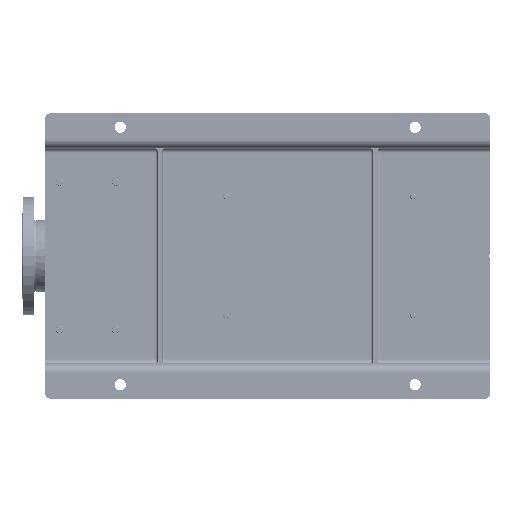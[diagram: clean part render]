
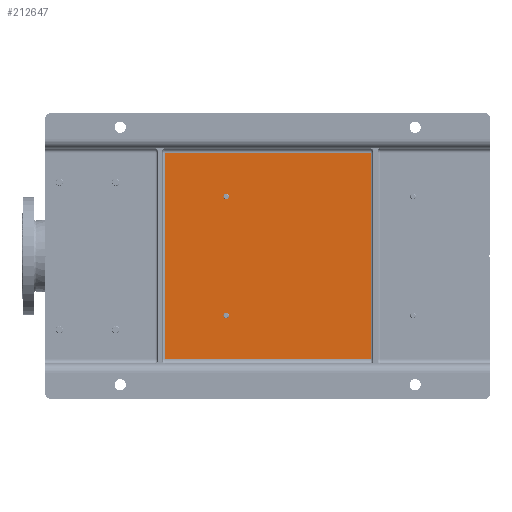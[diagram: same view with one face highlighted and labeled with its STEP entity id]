
A CAD part, front view. The second image highlights one B-rep face of the part: STEP entity #212647.
In plain terms, the highlighted planar face has unit normal (0, -1, 0).
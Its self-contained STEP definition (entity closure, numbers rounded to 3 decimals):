
#1795 = VECTOR ( 'NONE', #42062, 1000. ) ;
#3696 = ORIENTED_EDGE ( 'NONE', *, *, #183637, .T. ) ;
#3949 = VERTEX_POINT ( 'NONE', #95324 ) ;
#8284 = LINE ( 'NONE', #88505, #66999 ) ;
#10096 = DIRECTION ( 'NONE',  ( 0., 0., -1. ) ) ;
#14973 = CARTESIAN_POINT ( 'NONE',  ( 525., 65., -255. ) ) ;
#21454 = LINE ( 'NONE', #54981, #42798 ) ;
#22468 = CIRCLE ( 'NONE', #30631, 6. ) ;
#25074 = VECTOR ( 'NONE', #43583, 1000. ) ;
#26780 = CARTESIAN_POINT ( 'NONE',  ( 178., 65., -386.5 ) ) ;
#30631 = AXIS2_PLACEMENT_3D ( 'NONE', #26780, #66258, #163038 ) ;
#33391 = EDGE_CURVE ( 'NONE', #42802, #177828, #8284, .T. ) ;
#34269 = EDGE_CURVE ( 'NONE', #225716, #3949, #22468, .T. ) ;
#40692 = ORIENTED_EDGE ( 'NONE', *, *, #161150, .T. ) ;
#42062 = DIRECTION ( 'NONE',  ( 0., 0., 1. ) ) ;
#42798 = VECTOR ( 'NONE', #100419, 1000. ) ;
#42802 = VERTEX_POINT ( 'NONE', #200878 ) ;
#43583 = DIRECTION ( 'NONE',  ( -1., 0., 0. ) ) ;
#46213 = CARTESIAN_POINT ( 'NONE',  ( 432., 65., -386.5 ) ) ;
#47481 = DIRECTION ( 'NONE',  ( 0., 0., 1. ) ) ;
#51110 = CIRCLE ( 'NONE', #209808, 6. ) ;
#54981 = CARTESIAN_POINT ( 'NONE',  ( 85., 65., -700. ) ) ;
#61166 = EDGE_LOOP ( 'NONE', ( #142256, #64550 ) ) ;
#61672 = CARTESIAN_POINT ( 'NONE',  ( 85., 65., -255. ) ) ;
#61836 = ORIENTED_EDGE ( 'NONE', *, *, #163968, .T. ) ;
#63669 = DIRECTION ( 'NONE',  ( 0., 0., 1. ) ) ;
#64550 = ORIENTED_EDGE ( 'NONE', *, *, #118458, .T. ) ;
#66258 = DIRECTION ( 'NONE',  ( 0., 1., 0. ) ) ;
#66999 = VECTOR ( 'NONE', #162373, 1000. ) ;
#71664 = AXIS2_PLACEMENT_3D ( 'NONE', #108167, #164205, #10096 ) ;
#85286 = DIRECTION ( 'NONE',  ( 0., 1., 0. ) ) ;
#87017 = EDGE_LOOP ( 'NONE', ( #215092, #248074 ) ) ;
#88505 = CARTESIAN_POINT ( 'NONE',  ( 75., 65., -695. ) ) ;
#95324 = CARTESIAN_POINT ( 'NONE',  ( 178., 65., -392.5 ) ) ;
#100419 = DIRECTION ( 'NONE',  ( 0., 0., -1. ) ) ;
#103281 = AXIS2_PLACEMENT_3D ( 'NONE', #123465, #85286, #63669 ) ;
#103579 = DIRECTION ( 'NONE',  ( 0., 1., 0. ) ) ;
#108167 = CARTESIAN_POINT ( 'NONE',  ( 75., 65., -950. ) ) ;
#110006 = VERTEX_POINT ( 'NONE', #119575 ) ;
#110122 = VERTEX_POINT ( 'NONE', #14973 ) ;
#111115 = FACE_BOUND ( 'NONE', #87017, .T. ) ;
#118458 = EDGE_CURVE ( 'NONE', #3949, #225716, #166183, .T. ) ;
#119575 = CARTESIAN_POINT ( 'NONE',  ( 432., 65., -380.5 ) ) ;
#122750 = ORIENTED_EDGE ( 'NONE', *, *, #33391, .T. ) ;
#123465 = CARTESIAN_POINT ( 'NONE',  ( 432., 65., -386.5 ) ) ;
#128531 = PLANE ( 'NONE',  #71664 ) ;
#139821 = CIRCLE ( 'NONE', #103281, 6. ) ;
#140370 = LINE ( 'NONE', #218029, #25074 ) ;
#142256 = ORIENTED_EDGE ( 'NONE', *, *, #34269, .T. ) ;
#143843 = FACE_BOUND ( 'NONE', #61166, .T. ) ;
#160458 = CARTESIAN_POINT ( 'NONE',  ( 525., 65., -250. ) ) ;
#161150 = EDGE_CURVE ( 'NONE', #110122, #201647, #140370, .T. ) ;
#162373 = DIRECTION ( 'NONE',  ( 1., 0., 0. ) ) ;
#163038 = DIRECTION ( 'NONE',  ( 0., 0., -1. ) ) ;
#163968 = EDGE_CURVE ( 'NONE', #201647, #42802, #21454, .T. ) ;
#164205 = DIRECTION ( 'NONE',  ( 0., -1., 0. ) ) ;
#166183 = CIRCLE ( 'NONE', #231221, 6. ) ;
#166732 = FACE_OUTER_BOUND ( 'NONE', #198321, .T. ) ;
#169396 = DIRECTION ( 'NONE',  ( 0., 1., 0. ) ) ;
#170642 = DIRECTION ( 'NONE',  ( 0., 0., -1. ) ) ;
#172952 = CARTESIAN_POINT ( 'NONE',  ( 178., 65., -380.5 ) ) ;
#175177 = EDGE_CURVE ( 'NONE', #110006, #250043, #139821, .T. ) ;
#177828 = VERTEX_POINT ( 'NONE', #213496 ) ;
#183637 = EDGE_CURVE ( 'NONE', #177828, #110122, #198667, .T. ) ;
#198321 = EDGE_LOOP ( 'NONE', ( #61836, #122750, #3696, #40692 ) ) ;
#198667 = LINE ( 'NONE', #160458, #1795 ) ;
#200878 = CARTESIAN_POINT ( 'NONE',  ( 85., 65., -695. ) ) ;
#201647 = VERTEX_POINT ( 'NONE', #61672 ) ;
#209808 = AXIS2_PLACEMENT_3D ( 'NONE', #46213, #103579, #47481 ) ;
#212419 = EDGE_CURVE ( 'NONE', #250043, #110006, #51110, .T. ) ;
#212647 = ADVANCED_FACE ( 'NONE', ( #111115, #143843, #166732 ), #128531, .T. ) ;
#213496 = CARTESIAN_POINT ( 'NONE',  ( 525., 65., -695. ) ) ;
#215092 = ORIENTED_EDGE ( 'NONE', *, *, #175177, .T. ) ;
#218029 = CARTESIAN_POINT ( 'NONE',  ( 75., 65., -255. ) ) ;
#220820 = CARTESIAN_POINT ( 'NONE',  ( 432., 65., -392.5 ) ) ;
#225716 = VERTEX_POINT ( 'NONE', #172952 ) ;
#227935 = CARTESIAN_POINT ( 'NONE',  ( 178., 65., -386.5 ) ) ;
#231221 = AXIS2_PLACEMENT_3D ( 'NONE', #227935, #169396, #170642 ) ;
#248074 = ORIENTED_EDGE ( 'NONE', *, *, #212419, .T. ) ;
#250043 = VERTEX_POINT ( 'NONE', #220820 ) ;
